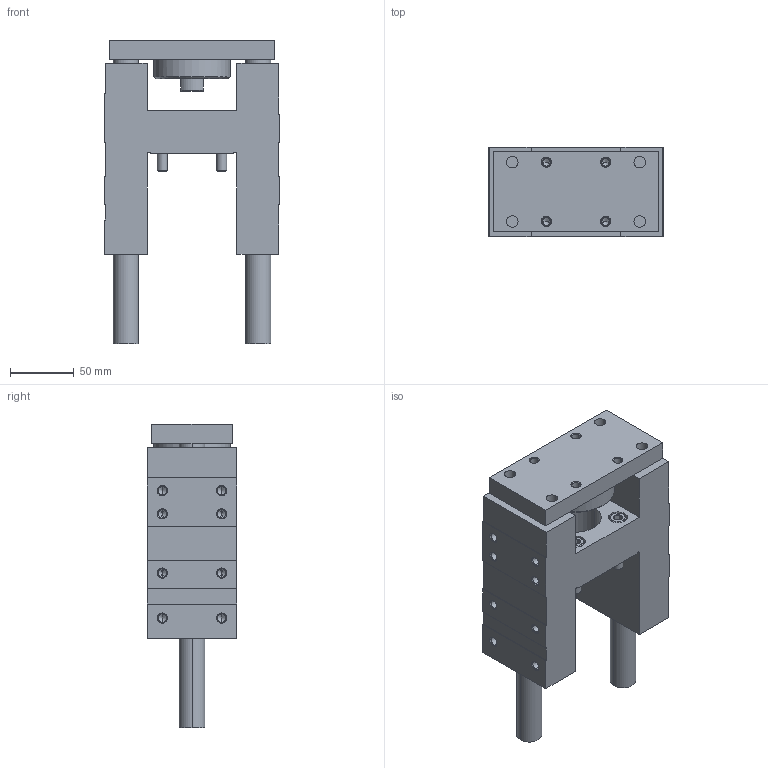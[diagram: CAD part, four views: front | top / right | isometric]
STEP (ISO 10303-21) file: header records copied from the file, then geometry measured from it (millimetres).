
FILE_DESCRIPTION (( 'STEP AP203' ), '1' );
FILE_NAME ('GB50-50.STEP', '2020-04-24T11:27:04', ( '' ), ( '' ), 'SwSTEP 2.0', 'SolidWorks 2019', '' );
FILE_SCHEMA (( 'CONFIG_CONTROL_DESIGN' ));
Length unit declared in the file: millimetre
Products named in the file (1): GB50-50
Bounding box: 137 x 70 x 238 mm (x, y, z)
Volume: 1008375.2 mm3; surface area: 174767.7 mm2
Topology: 6 solids, 6 shells, 377 faces, 852 edges, 480 vertices
Faces by surface type: cone 154, plane 117, cylinder 106
Entity records: 10863 total; most frequent: CARTESIAN_POINT 2350, DIRECTION 1902, ORIENTED_EDGE 1624, EDGE_CURVE 812, AXIS2_PLACEMENT_3D 744, VERTEX_POINT 480, EDGE_LOOP 440, LINE 414
